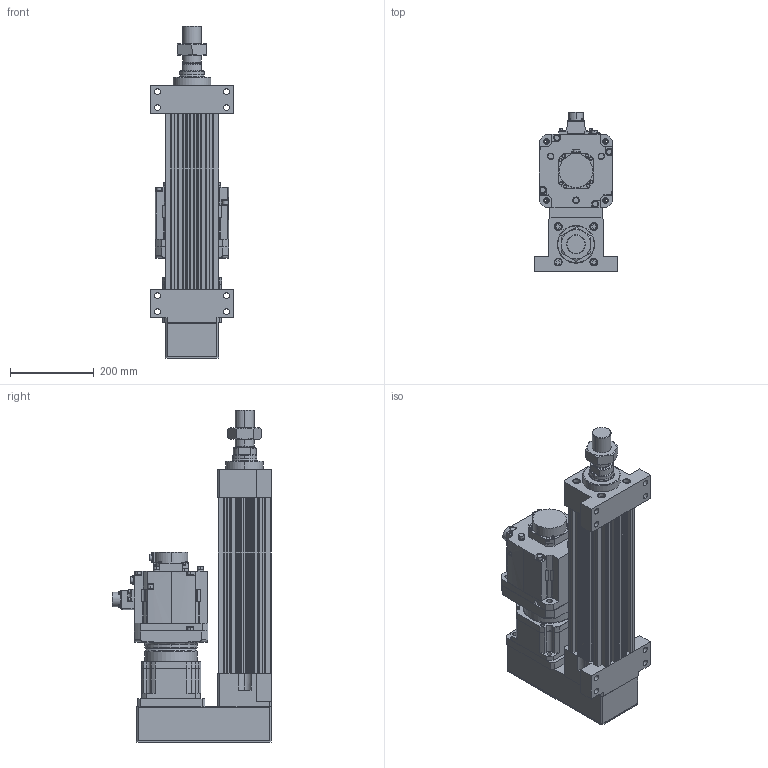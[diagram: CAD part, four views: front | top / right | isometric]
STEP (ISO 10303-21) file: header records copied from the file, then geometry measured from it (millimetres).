
FILE_DESCRIPTION (( 'STEP AP203' ), '1' );
FILE_NAME ('HES130NS(FS)(HS)-P200-W020G00-M-FFB.STEP', '2026-06-10T06:07:02', ( 'tms' ), ( '' ), 'SwSTEP 2.0', 'SolidWorks 2013', '' );
FILE_SCHEMA (( 'CONFIG_CONTROL_DESIGN' ));
Length unit declared in the file: millimetre
Products named in the file (9): HES130-M-ROD-200; HG-SR202B; AB1422; AB1423; HES130-FFB-200; HES130-P-G142; AB1421; HES130NS(FS)(HS)-P200-W020G00-M-FFB; M45X1.5P
Assembly tree (8 placements, depth 2):
  HES130NS(FS)(HS)-P200-W020G00-M-FFB
    HES130-FFB-200
    HES130-M-ROD-200
    M45X1.5P
    HES130-P-G142
    AB1421
    AB1422
    AB1423
    HG-SR202B
Bounding box: 200 x 381.85 x 794 mm (x, y, z)
Volume: 12753675.4 mm3; surface area: 1451890.6 mm2
Topology: 5 solids, 19 shells, 1495 faces, 3890 edges, 2530 vertices
Faces by surface type: cylinder 682, plane 587, cone 144, bspline 76, torus 6
Entity records: 54922 total; most frequent: CARTESIAN_POINT 16717, DIRECTION 7994, ORIENTED_EDGE 7706, EDGE_CURVE 3875, AXIS2_PLACEMENT_3D 3024, VERTEX_POINT 2530, LINE 1946, VECTOR 1946
